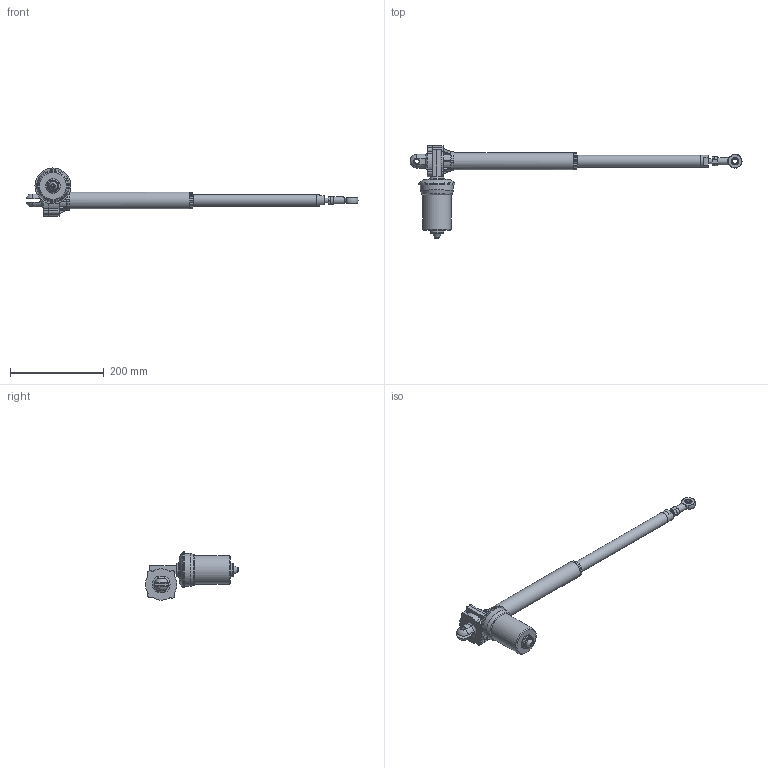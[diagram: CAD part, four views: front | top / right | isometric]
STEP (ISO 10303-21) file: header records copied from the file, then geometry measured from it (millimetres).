
FILE_DESCRIPTION(/* description */ ('STEP AP203'),/* implementation_level */ '2;1');
FILE_NAME(/* name */ 'ALI3_250_250_M04_CC-24-61_5-5000__TIPOX._0_E01__1_4',/* time_stamp */ '2026-05-07T10:49:00+02:00',/* author */ ('License CC BY-ND 4.0'),/* organization */ ('CADENAS'),/* preprocessor_version */ 'ST-DEVELOPER v20',/* originating_system */ 'PARTsolutions',/* authorisation */ ' ');
FILE_SCHEMA (('CONFIG_CONTROL_DESIGN'));
Length unit declared in the file: millimetre
Products named in the file (6): ALI3/250/250/M04/CC-24-61,5-5000/$TIPOX./0/E01//1/4/////; corpo_ALI3.250.0.01; AP_ALI32; CD012.0010-G; asta_ALI3.250; C4
Assembly tree (5 placements, depth 2):
  ALI3/250/250/M04/CC-24-61,5-5000/$TIPOX./0/E01//1/4/////
    corpo_ALI3.250.0.01
    AP_ALI32
    CD012.0010-G
    asta_ALI3.250
    C4
Bounding box: 709.59 x 198.41 x 102.91 mm (x, y, z)
Volume: 840003.6 mm3; surface area: 153729.6 mm2
Topology: 5 solids, 5 shells, 225 faces, 574 edges, 371 vertices
Faces by surface type: plane 122, cylinder 60, cone 25, torus 13, sphere 5
Full cylindrical faces by diameter (mm): 10 x4, 15 x1, 25 x3, 29.5 x1, 36 x1, 42 x1, 61.5 x1, 70.5 x1, 77 x1
Entity records: 6773 total; most frequent: CARTESIAN_POINT 1295, DIRECTION 1166, ORIENTED_EDGE 1062, EDGE_CURVE 531, AXIS2_PLACEMENT_3D 454, VERTEX_POINT 360, EDGE_LOOP 275, FACE_BOUND 275
